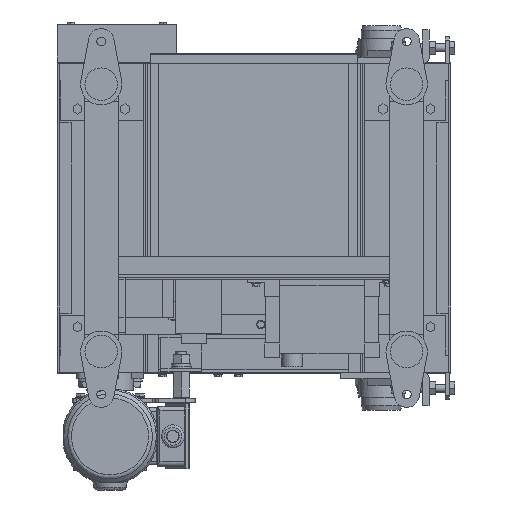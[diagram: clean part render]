
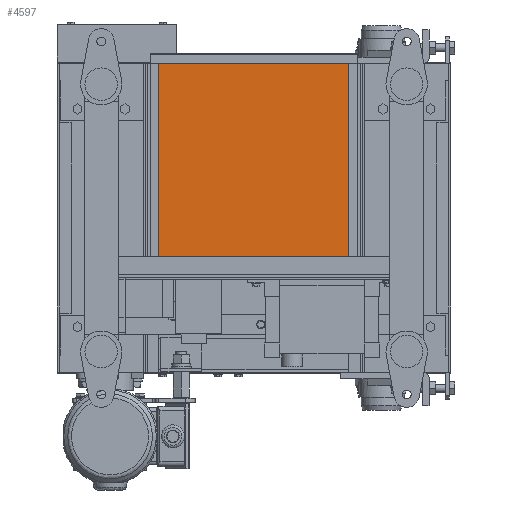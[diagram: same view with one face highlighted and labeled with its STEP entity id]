
A CAD part, front view. The second image highlights one B-rep face of the part: STEP entity #4597.
In plain terms, the highlighted planar face has unit normal (0, -1, 0).
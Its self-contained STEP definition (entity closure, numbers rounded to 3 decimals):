
#4597=ADVANCED_FACE('',(#22887),#22886,.F.);
#22886=PLANE('',#38597);
#22887=FACE_OUTER_BOUND('',#38598,.T.);
#38594=CARTESIAN_POINT('',(127.5,-165.,-171.));
#38595=DIRECTION('',(0.,1.,0.));
#38596=DIRECTION('',(0.,0.,1.));
#38597=AXIS2_PLACEMENT_3D('',#38594,#38595,#38596);
#38598=EDGE_LOOP('',(#51190,#51191,#51192,#51193));
#51190=ORIENTED_EDGE('',*,*,#58856,.F.);
#51191=ORIENTED_EDGE('',*,*,#58862,.F.);
#51192=ORIENTED_EDGE('',*,*,#58863,.F.);
#51193=ORIENTED_EDGE('',*,*,#58864,.F.);
#58856=EDGE_CURVE('',#90151,#90152,#90153,.T.);
#58862=EDGE_CURVE('',#90190,#90151,#90191,.T.);
#58863=EDGE_CURVE('',#90197,#90190,#90198,.T.);
#58864=EDGE_CURVE('',#90152,#90197,#90204,.T.);
#90151=VERTEX_POINT('',#118433);
#90152=VERTEX_POINT('',#118434);
#90153=LINE('',#118435,#118436);
#90190=VERTEX_POINT('',#118454);
#90191=LINE('',#118455,#118456);
#90197=VERTEX_POINT('',#118458);
#90198=LINE('',#118459,#118460);
#90204=LINE('',#118462,#118463);
#118433=CARTESIAN_POINT('',(137.5,-165.,-161.));
#118434=CARTESIAN_POINT('',(137.5,-165.,228.2));
#118435=CARTESIAN_POINT('',(137.5,-165.,-161.));
#118436=VECTOR('',#118437,389.2);
#118437=DIRECTION('',(0.,0.,1.));
#118454=CARTESIAN_POINT('',(442.5,-165.,-161.));
#118455=CARTESIAN_POINT('',(442.5,-165.,-161.));
#118456=VECTOR('',#118457,305.);
#118457=DIRECTION('',(-1.,0.,0.));
#118458=CARTESIAN_POINT('',(442.5,-165.,228.2));
#118459=CARTESIAN_POINT('',(442.5,-165.,228.2));
#118460=VECTOR('',#118461,389.2);
#118461=DIRECTION('',(0.,0.,-1.));
#118462=CARTESIAN_POINT('',(137.5,-165.,228.2));
#118463=VECTOR('',#118464,305.);
#118464=DIRECTION('',(1.,0.,0.));
